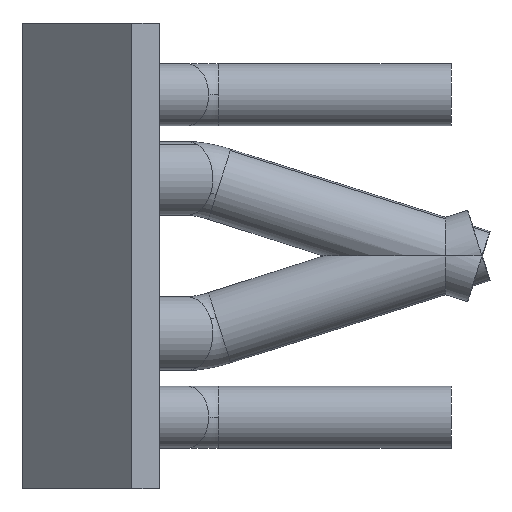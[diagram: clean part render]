
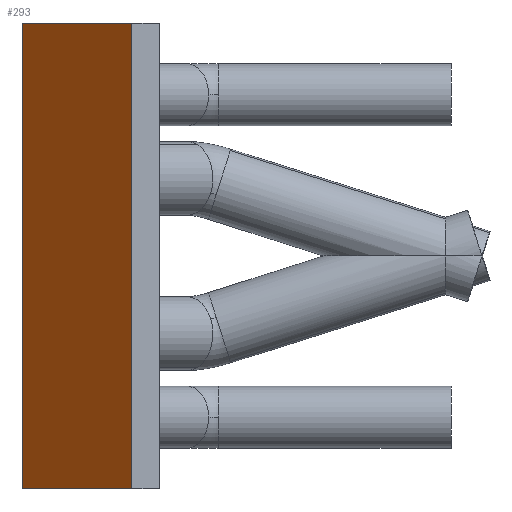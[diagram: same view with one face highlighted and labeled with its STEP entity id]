
A CAD part, front view. The second image highlights one B-rep face of the part: STEP entity #293.
In plain terms, the highlighted planar face has unit normal (-0.707, -0.707, 0).
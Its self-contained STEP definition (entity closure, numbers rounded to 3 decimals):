
#293=ADVANCED_FACE('',(#583),#584,.F.);
#583=FACE_OUTER_BOUND('',#868,.T.);
#584=PLANE('',#869);
#868=EDGE_LOOP('',(#1628,#1629,#1630,#1631));
#869=AXIS2_PLACEMENT_3D('',#1632,#1633,#1634);
#1628=ORIENTED_EDGE('',*,*,#1961,.F.);
#1629=ORIENTED_EDGE('',*,*,#1935,.F.);
#1630=ORIENTED_EDGE('',*,*,#1813,.F.);
#1631=ORIENTED_EDGE('',*,*,#1962,.T.);
#1632=CARTESIAN_POINT('',(34.319,-87.681,0.0));
#1633=DIRECTION('',(0.707,0.707,0.));
#1634=DIRECTION('',(-0.707,0.707,0.));
#1813=EDGE_CURVE('',#2211,#2206,#2213,.T.);
#1935=EDGE_CURVE('',#2206,#2370,#2372,.T.);
#1961=EDGE_CURVE('',#2370,#2398,#2399,.T.);
#1962=EDGE_CURVE('',#2211,#2398,#2400,.T.);
#2206=VERTEX_POINT('',#2670);
#2211=VERTEX_POINT('',#2677);
#2213=LINE('',#2680,#2681);
#2370=VERTEX_POINT('',#2866);
#2372=LINE('',#2869,#2870);
#2398=VERTEX_POINT('',#2899);
#2399=LINE('',#2900,#2901);
#2400=LINE('',#2902,#2903);
#2670=CARTESIAN_POINT('',(20.177,-73.539,0.));
#2677=CARTESIAN_POINT('',(48.461,-101.823,0.0));
#2680=CARTESIAN_POINT('',(48.461,-101.823,0.0));
#2681=VECTOR('',#3204,1.0);
#2866=CARTESIAN_POINT('',(20.177,-73.539,120.0));
#2869=CARTESIAN_POINT('',(20.177,-73.539,0.));
#2870=VECTOR('',#3402,1.0);
#2899=CARTESIAN_POINT('',(48.461,-101.823,120.0));
#2900=CARTESIAN_POINT('',(48.461,-101.823,120.0));
#2901=VECTOR('',#3415,1.0);
#2902=CARTESIAN_POINT('',(48.461,-101.823,0.0));
#2903=VECTOR('',#3416,1.0);
#3204=DIRECTION('',(-0.707,0.707,0.));
#3402=DIRECTION('',(0.,0.,1.0));
#3415=DIRECTION('',(0.707,-0.707,0.));
#3416=DIRECTION('',(0.,0.,1.0));
